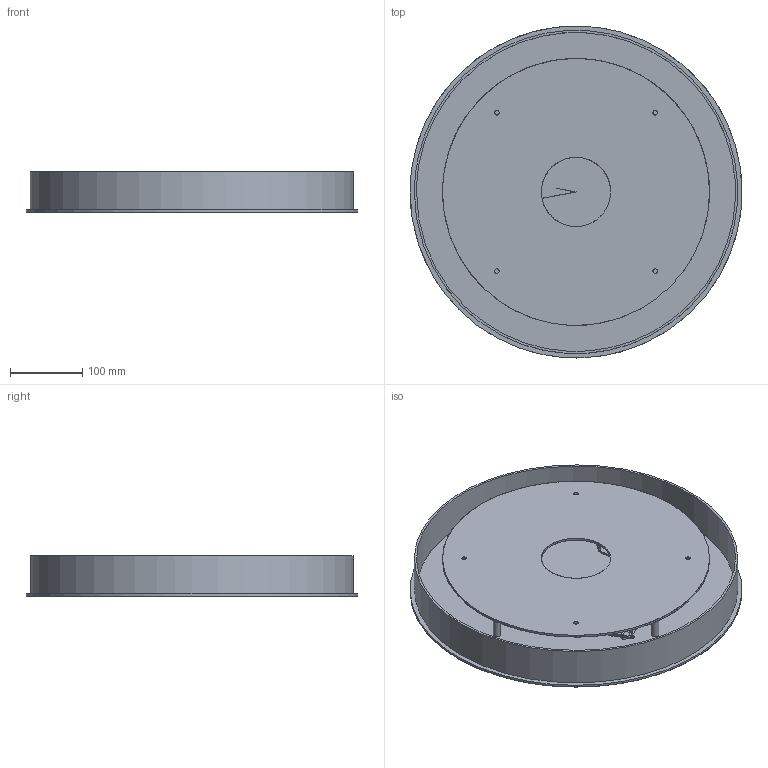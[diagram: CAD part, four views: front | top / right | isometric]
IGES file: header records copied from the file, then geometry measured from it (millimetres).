
Global section: file name: /Users/danielszollosi/Documents/SkLO/DEVELOPMENT/LIGHT 2024/MULTIPENDANT CANOPIES/Round Multipendant Canopies/SkLO_Round_Canopy_18_MCR18/3D/SkLO_Round_Canopy_18_MCR18_3D.igs; native system: Rhinoceros ( Sep 24 2023 ); preprocessor: Trout Lake IGES 012 Sep 24 2023; date: 241018.213048; units: millimetre
Bounding box: 459.95 x 460 x 56.3 mm (x, y, z)
Surface area: 711276.5 mm2 (no closed solid volume)
Topology: 0 solids, 0 shells, 175 faces, 945 edges, 854 vertices
Faces by surface type: bspline 175
